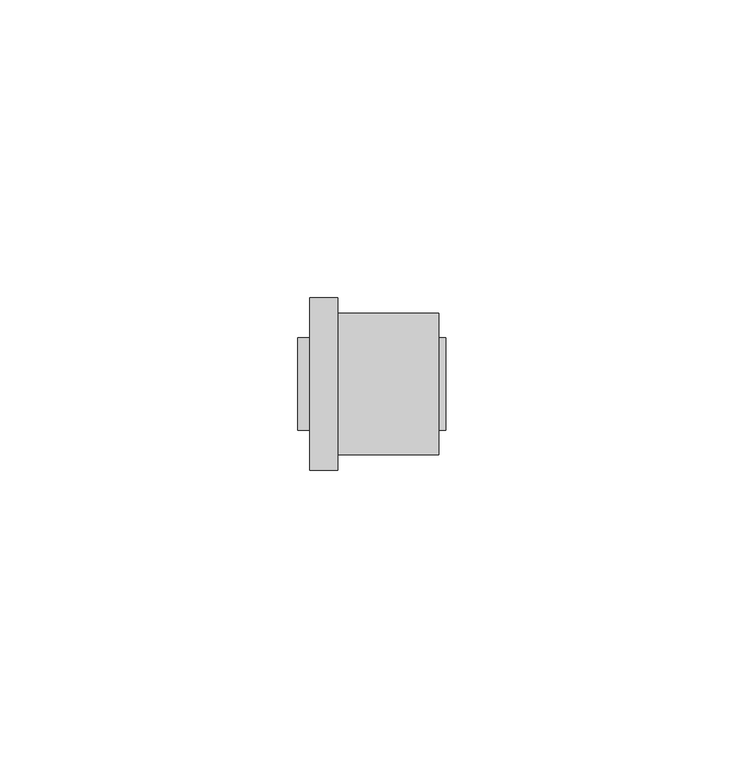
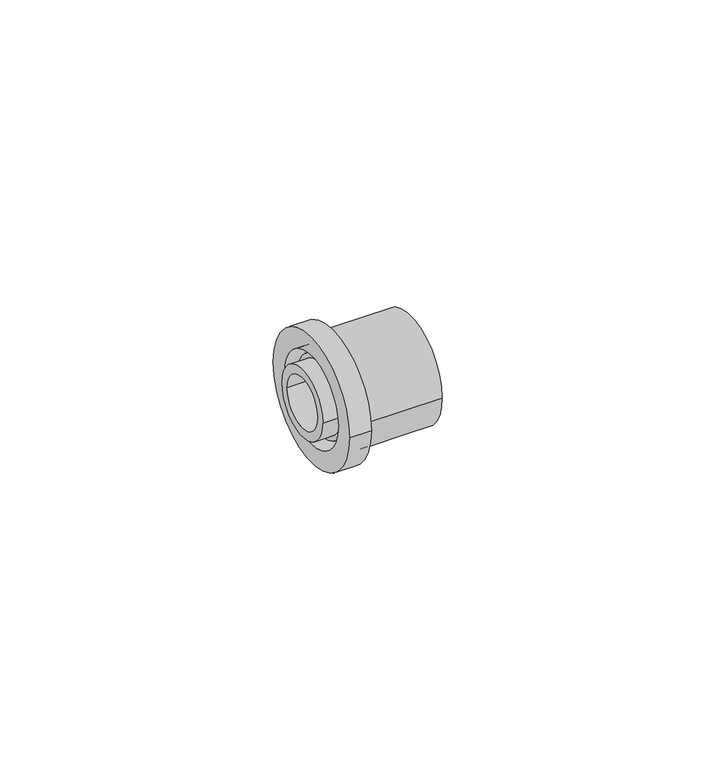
"""IFC4 building model written with IfcOpenShell, lengths in millimetres: pipe fitting geometry, FASTLOC_Blanking plug EX+ : FSL Bp EX+ AT."""

from ifc_helpers import new_model, si_unit, frame, origin, place, context, project, spatial, polyline, circle_curve, source, transform, mapped, element, save
from ifc_brep_helpers import plane_surface, cylinder_surface, revolved_surface, advanced_brep


def pipe_fitting_0c2dddc6(model_context):
    return source(origin(), model_context, "Body", "AdvancedBrep", [
        advanced_brep(
        [(6.7, 14.5, 0.0), (6.7, -14.5, 0.0), (2.0, -14.5, 0.0), (2.0, 14.5, 0.0), (23.7, 11.85, 0.0), (23.7, -11.85, 0.0), (6.7, -11.85, 0.0), (6.7, 11.85, 0.0), (2.0, 10.15, 0.0), (2.0, -10.15, 0.0), (23.7, -10.15, 0.0), (23.7, 10.15, 0.0)],
        [
            (0, 1, circle_curve(frame((6.7, 0.0, 0.0), z_axis=(-1.0, 0.0, 0.0), x_axis=(0.0, -1.0, 0.0)), 14.5)),
            (1, 2),
            (2, 3, circle_curve(frame((2.0, 0.0, 0.0), z_axis=(1.0, 0.0, 0.0), x_axis=(0.0, -1.0, 0.0)), 14.5)),
            (3, 0),
            (4, 5, circle_curve(frame((23.7, 0.0, 0.0), z_axis=(-1.0, 0.0, 0.0), x_axis=(0.0, -1.0, 0.0)), 11.85)),
            (5, 6),
            (6, 7, circle_curve(frame((6.7, 0.0, 0.0), z_axis=(1.0, 0.0, 0.0), x_axis=(0.0, -1.0, 0.0)), 11.85)),
            (7, 4),
            (8, 9, circle_curve(frame((2.0, 0.0, 0.0), z_axis=(-1.0, 0.0, 0.0), x_axis=(0.0, -1.0, 0.0)), 10.15)),
            (9, 10),
            (10, 11, circle_curve(frame((23.7, 0.0, 0.0), z_axis=(1.0, 0.0, 0.0), x_axis=(0.0, -1.0, 0.0)), 10.15)),
            (11, 8),
            (1, 0, circle_curve(frame((6.7, 0.0, 0.0), z_axis=(-1.0, 0.0, 0.0), x_axis=(0.0, 1.0, 0.0)), 14.5)),
            (3, 2, circle_curve(frame((2.0, 0.0, 0.0), z_axis=(1.0, 0.0, 0.0), x_axis=(0.0, 1.0, 0.0)), 14.5)),
            (6, 7, circle_curve(frame((6.7, 0.0, 0.0), z_axis=(-1.0, 0.0, 0.0), x_axis=(0.0, 1.0, 0.0)), 11.85)),
            (5, 4, circle_curve(frame((23.7, 0.0, 0.0), z_axis=(-1.0, 0.0, 0.0), x_axis=(0.0, 1.0, 0.0)), 11.85)),
            (10, 11, circle_curve(frame((23.7, 0.0, 0.0), z_axis=(-1.0, 0.0, 0.0), x_axis=(0.0, 1.0, 0.0)), 10.15)),
            (9, 8, circle_curve(frame((2.0, 0.0, 0.0), z_axis=(-1.0, 0.0, 0.0), x_axis=(0.0, 1.0, 0.0)), 10.15)),
        ],
        [
            cylinder_surface(frame((2.0, 0.0, 0.0), z_axis=(1.0, 0.0, 0.0), x_axis=(0.0, -1.0, 0.0)), 14.5),
            cylinder_surface(frame((2.0, 0.0, 0.0), z_axis=(1.0, 0.0, 0.0), x_axis=(0.0, -1.0, 0.0)), 11.85),
            revolved_surface(polyline([(23.7, -10.15, 0.0), (2.0, -10.15, 0.0)]), (2.0, 0.0, 0.0), (1.0, 0.0, 0.0)),
            cylinder_surface(frame((2.0, 0.0, 0.0), z_axis=(1.0, 0.0, 0.0), x_axis=(0.0, 1.0, 0.0)), 14.5),
            plane_surface(frame((6.7, 0.0, 0.0), z_axis=(1.0, 0.0, 0.0), x_axis=(0.0, 1.0, 0.0))),
            cylinder_surface(frame((2.0, 0.0, 0.0), z_axis=(1.0, 0.0, 0.0), x_axis=(0.0, 1.0, 0.0)), 11.85),
            plane_surface(frame((23.7, 0.0, 0.0), z_axis=(1.0, 0.0, 0.0), x_axis=(0.0, 1.0, 0.0))),
            revolved_surface(polyline([(23.7, 10.15, 0.0), (2.0, 10.15, 0.0)]), (2.0, 0.0, 0.0), (1.0, 0.0, 0.0)),
            plane_surface(frame((2.0, 0.0, 0.0), z_axis=(-1.0, 0.0, 0.0), x_axis=(0.0, 1.0, 0.0))),
        ],
        [
            (0, [[1, 2, 3, 4]]),
            (1, [[5, 6, 7, 8]]),
            (2, [[9, 10, 11, 12]]),
            (3, [[13, -4, 14, -2]]),
            (4, [[-13, -1], [15, -7]]),
            (5, [[16, -8, -15, -6]]),
            (6, [[-16, -5], [17, -11]]),
            (7, [[18, -12, -17, -10]]),
            (8, [[-14, -3], [-18, -9]]),
        ],
    ),
        advanced_brep(
        [(0.0, 5.75, 0.0), (0.0, -5.75, 0.0), (24.9, -5.75, 0.0), (24.9, 5.75, 0.0), (4.0, 7.75, 0.0), (4.0, -7.75, 0.0), (0.0, -7.75, 0.0), (0.0, 7.75, 0.0), (6.7, 8.8, 0.0), (6.7, -8.8, 0.0), (4.0, -8.8, 0.0), (4.0, 8.8, 0.0), (24.9, 7.75, 0.0), (24.9, -7.75, 0.0), (6.7, -7.75, 0.0), (6.7, 7.75, 0.0)],
        [
            (0, 1, circle_curve(frame((0.0, 0.0, 0.0), z_axis=(-1.0, 0.0, 0.0), x_axis=(0.0, -1.0, 0.0)), 5.75)),
            (1, 2),
            (2, 3, circle_curve(frame((24.9, 0.0, 0.0), z_axis=(1.0, 0.0, 0.0), x_axis=(0.0, -1.0, 0.0)), 5.75)),
            (3, 0),
            (4, 5, circle_curve(frame((4.0, 0.0, 0.0), z_axis=(-1.0, 0.0, 0.0), x_axis=(0.0, -1.0, 0.0)), 7.75)),
            (5, 6),
            (6, 7, circle_curve(frame((0.0, 0.0, 0.0), z_axis=(1.0, 0.0, 0.0), x_axis=(0.0, -1.0, 0.0)), 7.75)),
            (7, 4),
            (8, 9, circle_curve(frame((6.7, 0.0, 0.0), z_axis=(-1.0, 0.0, 0.0), x_axis=(0.0, -1.0, 0.0)), 8.8)),
            (9, 10),
            (10, 11, circle_curve(frame((4.0, 0.0, 0.0), z_axis=(1.0, 0.0, 0.0), x_axis=(0.0, -1.0, 0.0)), 8.8)),
            (11, 8),
            (12, 13, circle_curve(frame((24.9, 0.0, 0.0), z_axis=(-1.0, 0.0, 0.0), x_axis=(0.0, -1.0, 0.0)), 7.75)),
            (13, 14),
            (14, 15, circle_curve(frame((6.7, 0.0, 0.0), z_axis=(1.0, 0.0, 0.0), x_axis=(0.0, -1.0, 0.0)), 7.75)),
            (15, 12),
            (1, 0, circle_curve(frame((0.0, 0.0, 0.0), z_axis=(-1.0, 0.0, 0.0), x_axis=(0.0, 1.0, 0.0)), 5.75)),
            (3, 2, circle_curve(frame((24.9, 0.0, 0.0), z_axis=(1.0, 0.0, 0.0), x_axis=(0.0, 1.0, 0.0)), 5.75)),
            (6, 7, circle_curve(frame((0.0, 0.0, 0.0), z_axis=(-1.0, 0.0, 0.0), x_axis=(0.0, 1.0, 0.0)), 7.75)),
            (5, 4, circle_curve(frame((4.0, 0.0, 0.0), z_axis=(-1.0, 0.0, 0.0), x_axis=(0.0, 1.0, 0.0)), 7.75)),
            (10, 11, circle_curve(frame((4.0, 0.0, 0.0), z_axis=(-1.0, 0.0, 0.0), x_axis=(0.0, 1.0, 0.0)), 8.8)),
            (9, 8, circle_curve(frame((6.7, 0.0, 0.0), z_axis=(-1.0, 0.0, 0.0), x_axis=(0.0, 1.0, 0.0)), 8.8)),
            (14, 15, circle_curve(frame((6.7, 0.0, 0.0), z_axis=(-1.0, 0.0, 0.0), x_axis=(0.0, 1.0, 0.0)), 7.75)),
            (13, 12, circle_curve(frame((24.9, 0.0, 0.0), z_axis=(-1.0, 0.0, 0.0), x_axis=(0.0, 1.0, 0.0)), 7.75)),
        ],
        [
            revolved_surface(polyline([(24.9, -5.75, 0.0), (0.0, -5.75, 0.0)]), (0.0, 0.0, 0.0), (1.0, 0.0, 0.0)),
            cylinder_surface(frame((0.0, 0.0, 0.0), z_axis=(1.0, 0.0, 0.0), x_axis=(0.0, -1.0, 0.0)), 7.75),
            cylinder_surface(frame((0.0, 0.0, 0.0), z_axis=(1.0, 0.0, 0.0), x_axis=(0.0, -1.0, 0.0)), 8.8),
            revolved_surface(polyline([(24.9, 5.75, 0.0), (0.0, 5.75, 0.0)]), (0.0, 0.0, 0.0), (1.0, 0.0, 0.0)),
            plane_surface(frame((0.0, 0.0, 0.0), z_axis=(-1.0, 0.0, 0.0), x_axis=(0.0, 1.0, 0.0))),
            cylinder_surface(frame((0.0, 0.0, 0.0), z_axis=(1.0, 0.0, 0.0), x_axis=(0.0, 1.0, 0.0)), 7.75),
            plane_surface(frame((4.0, 0.0, 0.0), z_axis=(-1.0, 0.0, 0.0), x_axis=(0.0, 1.0, 0.0))),
            cylinder_surface(frame((0.0, 0.0, 0.0), z_axis=(1.0, 0.0, 0.0), x_axis=(0.0, 1.0, 0.0)), 8.8),
            plane_surface(frame((6.7, 0.0, 0.0), z_axis=(1.0, 0.0, 0.0), x_axis=(0.0, 1.0, 0.0))),
            plane_surface(frame((24.9, 0.0, 0.0), z_axis=(1.0, 0.0, 0.0), x_axis=(0.0, 1.0, 0.0))),
        ],
        [
            (0, [[1, 2, 3, 4]]),
            (1, [[5, 6, 7, 8]]),
            (2, [[9, 10, 11, 12]]),
            (1, [[13, 14, 15, 16]]),
            (3, [[17, -4, 18, -2]]),
            (4, [[19, -7], [-17, -1]]),
            (5, [[20, -8, -19, -6]]),
            (6, [[21, -11], [-20, -5]]),
            (7, [[22, -12, -21, -10]]),
            (8, [[-22, -9], [23, -15]]),
            (5, [[24, -16, -23, -14]]),
            (9, [[-24, -13], [-18, -3]]),
        ],
    ),
    ])


if __name__ == "__main__":
    model = new_model("IFC4")
    model_context = context("Model", 3, world=origin())
    ifc_project = project(units=[si_unit("LENGTHUNIT", "METRE", prefix="MILLI")], contexts=[model_context])
    site = spatial("IfcSite", under=ifc_project)
    building = spatial("IfcBuilding", under=site)
    placement = place(None, origin())
    pipe_fitting_shape = pipe_fitting_0c2dddc6(model_context)
    element("IfcPipeFitting", 1, ObjectType="FASTLOC_Blanking plug EX+ : FSL Bp EX+ AT", at=placement, inside=building, context=model_context, shape_type="MappedRepresentation", body=[
        mapped(pipe_fitting_shape, transform((0.0, 0.0, 0.0), x_axis=(1.0, 0.0, 0.0), y_axis=(0.0, 1.0, 0.0), z_axis=(0.0, 0.0, 1.0))),
    ])
    save(model, "model.ifc")
